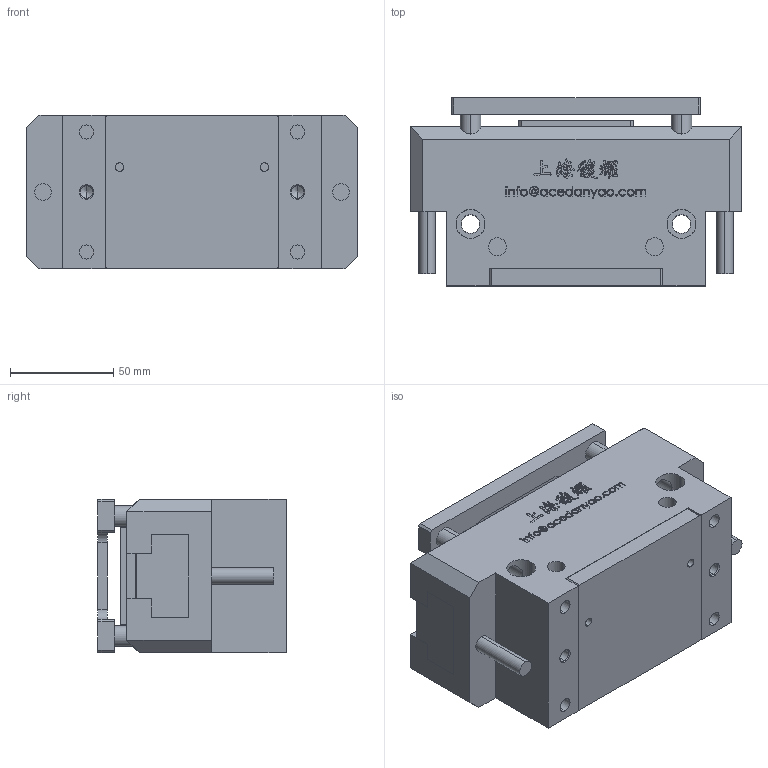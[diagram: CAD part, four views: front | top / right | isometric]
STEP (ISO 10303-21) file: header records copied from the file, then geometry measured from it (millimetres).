
FILE_DESCRIPTION (( 'STEP AP203' ), '1' );
FILE_NAME ('OPP2-160-C1-P-原始檔-組合-W106.04.19.STEP', '2017-04-19T03:26:04', ( 'DanyaoCAD' ), ( '' ), 'SwSTEP 2.0', 'SolidWorks 2016', '' );
FILE_SCHEMA (( 'CONFIG_CONTROL_DESIGN' ));
Length unit declared in the file: millimetre
Products named in the file (6): Coperchio; Corpo; OPP2-160-C1-P-原始檔-組合-W106.04.19; Fondello; Griffa; Piattello
Assembly tree (6 placements, depth 2):
  OPP2-160-C1-P-原始檔-組合-W106.04.19
    Corpo
    Fondello
    Griffa  x2
    Piattello
    Coperchio
Bounding box: 160 x 91 x 74 mm (x, y, z)
Volume: 796323.9 mm3; surface area: 149439 mm2
Topology: 6 solids, 6 shells, 1069 faces, 2976 edges, 1970 vertices
Faces by surface type: bspline 640, plane 301, cylinder 100, cone 28
Entity records: 50668 total; most frequent: CARTESIAN_POINT 27611, ORIENTED_EDGE 5784, EDGE_CURVE 2892, DIRECTION 2594, VERTEX_POINT 1920, LINE 1380, VECTOR 1380, B_SPLINE_CURVE_WITH_KNOTS 1304
